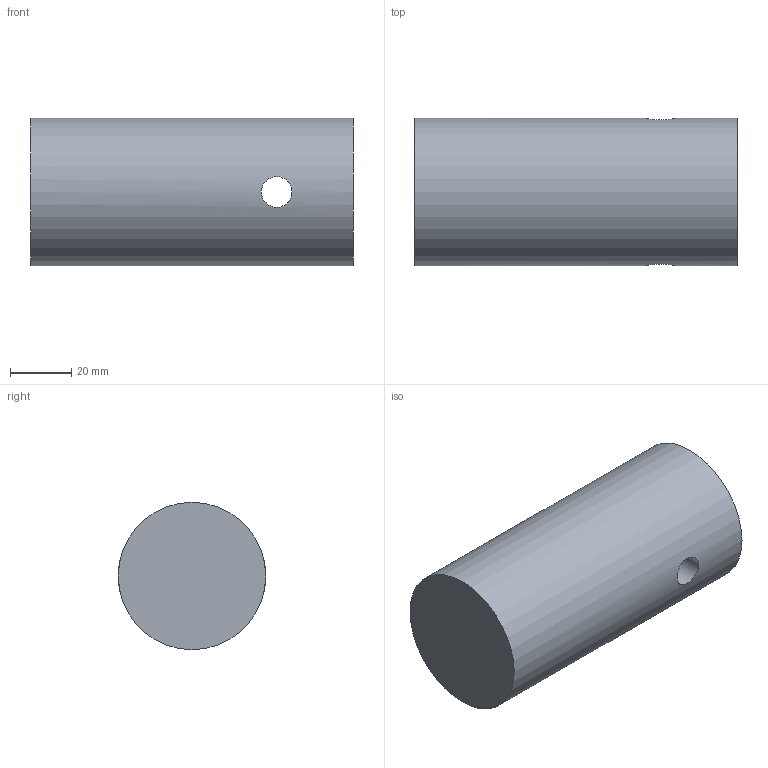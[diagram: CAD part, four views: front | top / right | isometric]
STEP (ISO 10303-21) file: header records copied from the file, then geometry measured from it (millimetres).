
FILE_DESCRIPTION(/* description */ (''),/* implementation_level */ '2;1');
FILE_NAME(/* name */ 'M:\Symbolen_NIEUW\STP\Tubes\111200037.stp',/* time_stamp */ '2015-06-08T11:53:59+02:00',/* author */ ('Sietse'),/* organization */ (''),/* preprocessor_version */ 'ST-DEVELOPER v15.6',/* originating_system */ 'Autodesk Inventor 2015',/* authorisation */ '');
FILE_SCHEMA (('AUTOMOTIVE_DESIGN { 1 0 10303 214 3 1 1 }'));
Length unit declared in the file: millimetre
Products named in the file (1): 160024387
Bounding box: 105.5 x 48.3 x 48.3 mm (x, y, z)
Volume: 189529.7 mm3; surface area: 21016.1 mm2
Topology: 1 solids, 1 shells, 4 faces, 9 edges, 6 vertices
Faces by surface type: cylinder 2, plane 2
Full cylindrical faces by diameter (mm): 10 x1, 48.3 x1
Entity records: 190 total; most frequent: CARTESIAN_POINT 87, DIRECTION 14, ORIENTED_EDGE 12, EDGE_LOOP 8, AXIS2_PLACEMENT_3D 7, VERTEX_POINT 6, EDGE_CURVE 6, FACE_BOUND 4
